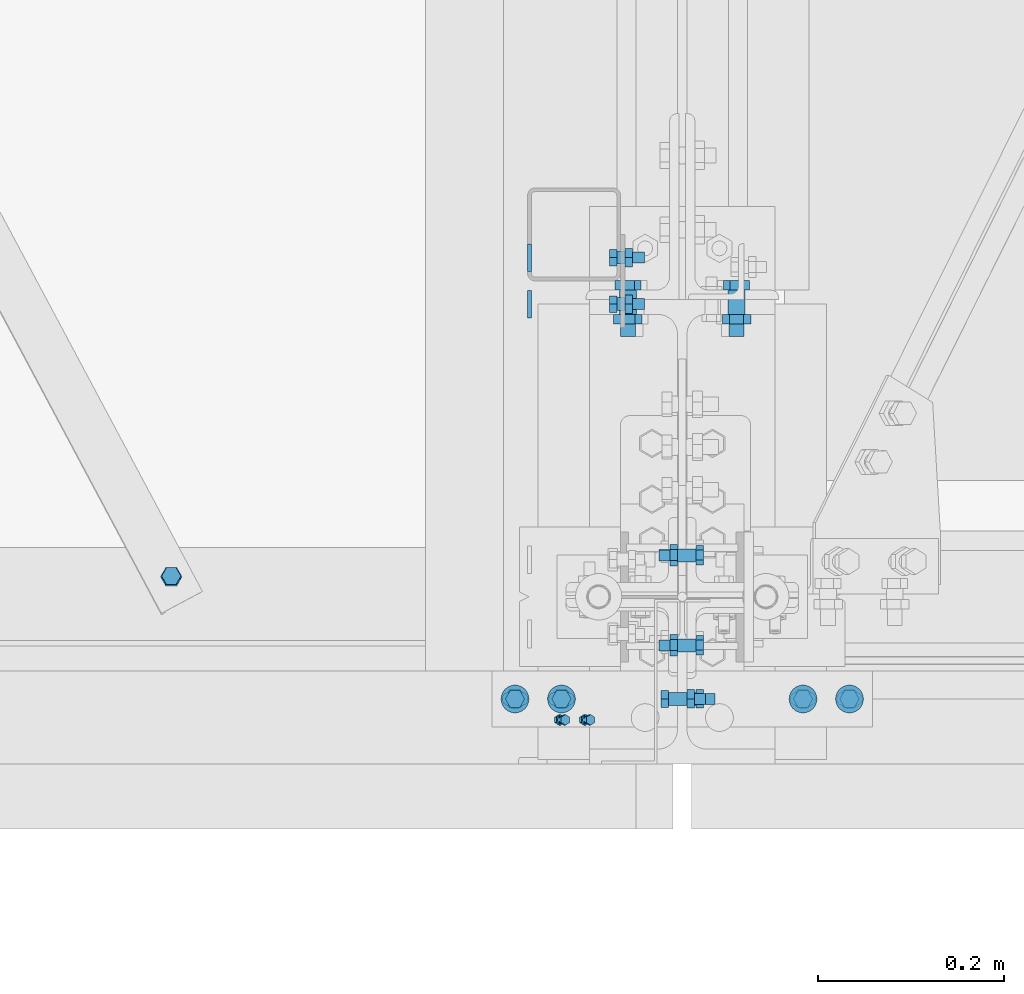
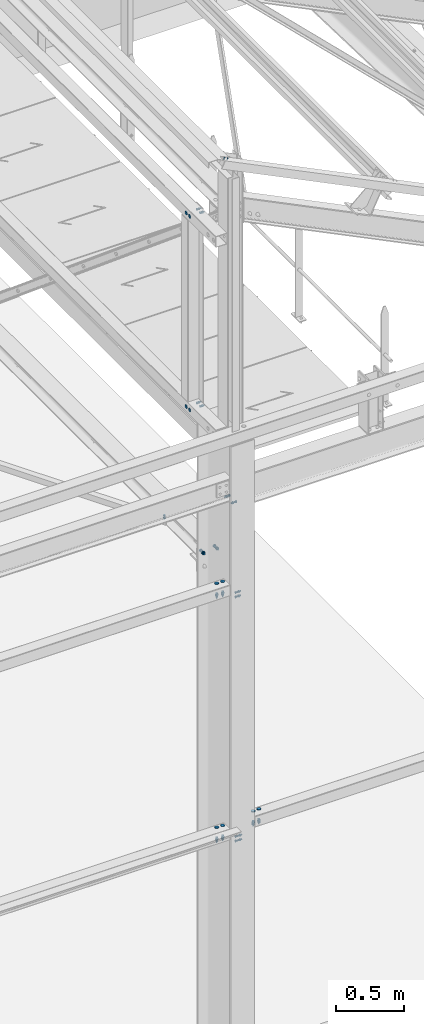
# One storey, part 307 of 362: 18 mechanical fasteners.
"""IFC2X3 building model written with IfcOpenShell, lengths in millimetres."""

import ifcopenshell
import ifcopenshell.guid

model = None  # the IFC model being written
_history = None  # IfcOwnerHistory: only IFC2X3 demands one
_inside = {}  # id of a spatial element -> (the spatial element, [elements in it])
_under = {}  # id of a project, library or spatial element -> (it, [spatial elements below it])
_declared = {}  # id of a project -> (the project, [libraries it declares])
_typed = {}  # id of a type object -> (the type object, [elements of that type])
_made_of = {}  # id of a material, layer set ... -> (it, [elements and type objects made of it])


def new_model(schema):
    """Start an empty IFC model of exactly this schema.

    Asked for "IFC4X3", IfcOpenShell would pick the latest addendum, in which some entities
    have other attributes; the version numbers below select the first issue.
    IFC2X3 requires an IfcOwnerHistory on every rooted entity: one is made here for all.
    """
    global model, _history
    if schema == "IFC4X3":
        model = ifcopenshell.file(schema_version=(4, 3, 0, 0))
    else:
        model = ifcopenshell.file(schema=schema)
    _inside.clear()
    _under.clear()
    _declared.clear()
    _typed.clear()
    _made_of.clear()
    _history = None
    if model.schema == "IFC2X3":
        org = make("IfcOrganization", Name="unknown")
        user = make(
            "IfcPersonAndOrganization",
            ThePerson=make("IfcPerson", FamilyName="unknown"),
            TheOrganization=org,
        )
        app = make(
            "IfcApplication",
            ApplicationDeveloper=org,
            Version="unknown",
            ApplicationFullName="unknown",
            ApplicationIdentifier="unknown",
        )
        _history = make(
            "IfcOwnerHistory",
            OwningUser=user,
            OwningApplication=app,
            ChangeAction="ADDED",
            CreationDate=0,
        )
    return model


def make(cls, **values):
    """One entity of the class cls with the attributes given. An attribute that is None is left unset."""
    return model.create_entity(
        cls, **{name: value for name, value in values.items() if value is not None}
    )


def rooted(cls, **values):
    """An entity with a GlobalId (a new one), such as an element, a storey or a relation."""
    return make(cls, GlobalId=ifcopenshell.guid.new(), OwnerHistory=_history, **values)


def si_unit(unit_type, name, prefix=None):
    """IfcSIUnit, for example si_unit("LENGTHUNIT", "METRE", prefix="MILLI")."""
    return make("IfcSIUnit", UnitType=unit_type, Prefix=prefix, Name=name)


def assignment(units):
    """IfcUnitAssignment: the units of a project."""
    return None if units is None else make("IfcUnitAssignment", Units=units)


def point(xyz):
    """IfcCartesianPoint."""
    return None if xyz is None else make("IfcCartesianPoint", Coordinates=xyz)


def direction(xyz):
    """IfcDirection."""
    return None if xyz is None else make("IfcDirection", DirectionRatios=xyz)


def frame(location, z_axis=None, x_axis=None):
    """IfcAxis2Placement3D, a coordinate frame: its origin and axes. An axis left out is left unset."""
    return make(
        "IfcAxis2Placement3D",
        Location=point(location),
        Axis=direction(z_axis),
        RefDirection=direction(x_axis),
    )


def frame_2d(location, x_axis=None):
    """IfcAxis2Placement2D, a coordinate frame in the plane: its origin and x axis."""
    return make(
        "IfcAxis2Placement2D", Location=point(location), RefDirection=direction(x_axis)
    )


def origin_with_axes():
    """The frame at (0, 0, 0) with the z axis (0, 0, 1) and the x axis (1, 0, 0) written out."""
    return frame((0.0, 0.0, 0.0), z_axis=(0.0, 0.0, 1.0), x_axis=(1.0, 0.0, 0.0))


def origin_2d_with_axis():
    """The frame at (0, 0) in the plane with the x axis (1, 0) written out."""
    return frame_2d((0.0, 0.0), x_axis=(1.0, 0.0))


def place(relative_to, where):
    """IfcLocalPlacement: puts the frame where relative to a parent placement (None: the world)."""
    return make(
        "IfcLocalPlacement", PlacementRelTo=relative_to, RelativePlacement=where
    )


def context(
    kind, dimensions, precision=None, world=None, true_north=None, identifier=None
):
    """IfcGeometricRepresentationContext, for example the 3D "Model" context."""
    return make(
        "IfcGeometricRepresentationContext",
        ContextIdentifier=identifier,
        ContextType=kind,
        CoordinateSpaceDimension=dimensions,
        Precision=precision,
        WorldCoordinateSystem=world,
        TrueNorth=true_north,
    )


def subcontext(parent, identifier, kind, view, scale=None):
    """IfcGeometricRepresentationSubContext, for example "Body" below "Model"."""
    return make(
        "IfcGeometricRepresentationSubContext",
        ContextIdentifier=identifier,
        ContextType=kind,
        ParentContext=parent,
        TargetScale=scale,
        TargetView=view,
    )


def project(units=None, contexts=None):
    """IfcProject with its units and contexts."""
    return rooted(
        "IfcProject",
        Name="project",
        RepresentationContexts=contexts,
        UnitsInContext=assignment(units),
    )


def spatial(cls, under=None, at=None, **own):
    """A site, building, storey or space (cls), placed at a placement, below another one or the project."""
    s = rooted(cls, ObjectPlacement=at, **own)
    if under is not None:
        _under.setdefault(under.id(), (under, []))[1].append(s)
    return s


def polyline(points):
    """IfcPolyline through the points."""
    return make("IfcPolyline", Points=[point(p) for p in points])


def circle_curve(where, radius):
    """IfcCircle in the frame where."""
    return make("IfcCircle", Position=where, Radius=radius)


def parameter(value):
    """IfcParameterValue: where a trimmed curve begins or ends, as a parameter of its basis curve."""
    return model.create_entity("IfcParameterValue", value)


def trimmed(basis, trim1, trim2, sense, master):
    """IfcTrimmedCurve: the piece of a basis curve between two trims."""
    return make(
        "IfcTrimmedCurve",
        BasisCurve=basis,
        Trim1=trim1,
        Trim2=trim2,
        SenseAgreement=sense,
        MasterRepresentation=master,
    )


def segment(curve, same_sense, transition):
    """IfcCompositeCurveSegment."""
    return make(
        "IfcCompositeCurveSegment",
        Transition=transition,
        SameSense=same_sense,
        ParentCurve=curve,
    )


def composite_curve(segments, self_intersect=None):
    """IfcCompositeCurve: segments joined end to end."""
    return make("IfcCompositeCurve", Segments=segments, SelfIntersect=self_intersect)


def profile(cls, at=None, kind="AREA", **sizes):
    """A parametric profile (cls). Its sizes go by their IFC names, for example OverallWidth=200.0."""
    return make(cls, ProfileType=kind, Position=at, **sizes)


def circle(**sizes):
    """IfcCircleProfileDef."""
    return profile("IfcCircleProfileDef", **sizes)


def outline(outer, holes=None, kind="AREA"):
    """IfcArbitraryClosedProfileDef: a profile drawn as a closed curve; with holes, ...WithVoids."""
    if holes is None:
        return make("IfcArbitraryClosedProfileDef", ProfileType=kind, OuterCurve=outer)
    return make(
        "IfcArbitraryProfileDefWithVoids",
        ProfileType=kind,
        OuterCurve=outer,
        InnerCurves=holes,
    )


def extrude(swept, where, along, depth):
    """IfcExtrudedAreaSolid: the profile swept, set in the frame where, extruded along a direction by depth."""
    return make(
        "IfcExtrudedAreaSolid",
        SweptArea=swept,
        Position=where,
        ExtrudedDirection=direction(along),
        Depth=depth,
    )


def shape(context_of_items, identifier, shape_type, items):
    """IfcShapeRepresentation: the items that make up one representation, for example the "Body"."""
    return make(
        "IfcShapeRepresentation",
        ContextOfItems=context_of_items,
        RepresentationIdentifier=identifier,
        RepresentationType=shape_type,
        Items=items,
    )


def source(mapping_origin, context_of_items, identifier, shape_type, items):
    """IfcRepresentationMap: a shape defined once, which mapped items show again and again."""
    return make(
        "IfcRepresentationMap",
        MappingOrigin=mapping_origin,
        MappedRepresentation=shape(context_of_items, identifier, shape_type, items),
    )


def transform(
    local_origin,
    x_axis=None,
    y_axis=None,
    z_axis=None,
    scale=None,
    scale2=None,
    scale3=None,
    uniform=True,
):
    """IfcCartesianTransformationOperator3D, or its non-uniform kind. x_axis, y_axis, z_axis: its Axis1, 2, 3."""
    if uniform:
        return make(
            "IfcCartesianTransformationOperator3D",
            Axis1=direction(x_axis),
            Axis2=direction(y_axis),
            LocalOrigin=point(local_origin),
            Scale=scale,
            Axis3=direction(z_axis),
        )
    return make(
        "IfcCartesianTransformationOperator3DnonUniform",
        Axis1=direction(x_axis),
        Axis2=direction(y_axis),
        LocalOrigin=point(local_origin),
        Scale=scale,
        Axis3=direction(z_axis),
        Scale2=scale2,
        Scale3=scale3,
    )


def mapped(mapping_source, mapping_target):
    """IfcMappedItem: shows the shape of a source again, moved by a transform."""
    return make(
        "IfcMappedItem", MappingSource=mapping_source, MappingTarget=mapping_target
    )


def material(Name=None, Category=None):
    """IfcMaterial."""
    return make("IfcMaterial", Name=Name, Category=Category)


def made_of(thing, what):
    """Note that an element or type object is made of a material, layer set ...; save() writes the relation."""
    if what is not None:
        _made_of.setdefault(what.id(), (what, []))[1].append(thing)
    return thing


def type_object(cls, material=None, **own):
    """A type object (cls), such as IfcWallType, which elements share."""
    return made_of(rooted(cls, **own), material)


def element(
    cls,
    number,
    at=None,
    inside=None,
    cuts=None,
    type_object=None,
    material=None,
    context=None,
    identifier="Body",
    shape_type=None,
    held_by="IfcProductDefinitionShape",
    body=None,
    shapes=None,
    **own,
):
    """One element of the class cls, such as IfcWall. Its Tag is "e" and its number.

    at: its placement. inside: the storey or other place that contains it. cuts: it is an
    opening in that element (IfcRelVoidsElement). A single representation is given by context,
    identifier, shape_type and body (its items); several are given by shapes. held_by: the class
    of the entity that holds the representations. save() writes the other relations.
    """
    e = rooted(cls, Tag="e%d" % number, ObjectPlacement=at, **own)
    if body is not None:
        shapes = [shape(context, identifier, shape_type, body)]
    if shapes is not None:
        e.Representation = make(held_by, Representations=shapes)
    if inside is not None:
        _inside.setdefault(inside.id(), (inside, []))[1].append(e)
    if cuts is not None:
        rooted(
            "IfcRelVoidsElement", RelatingBuildingElement=cuts, RelatedOpeningElement=e
        )
    if type_object is not None:
        _typed.setdefault(type_object.id(), (type_object, []))[1].append(e)
    return made_of(e, material)


def aggregate(whole, parts):
    """IfcRelAggregates: a whole, such as a stair, and the parts it consists of."""
    return rooted("IfcRelAggregates", RelatingObject=whole, RelatedObjects=parts)


def save(model, path):
    """Write the relations noted so far, then the file.

    IfcRelAggregates (storeys below a building ...), IfcRelContainedInSpatialStructure (elements
    in a storey), IfcRelDefinesByType, IfcRelAssociatesMaterial and IfcRelDeclares: one each for
    every whole, place, type object, material and project.
    """
    for whole, parts in _under.values():
        aggregate(whole, parts)
    for where, things in _inside.values():
        rooted(
            "IfcRelContainedInSpatialStructure",
            RelatedElements=things,
            RelatingStructure=where,
        )
    for kind, things in _typed.values():
        rooted("IfcRelDefinesByType", RelatedObjects=things, RelatingType=kind)
    for what, things in _made_of.values():
        rooted("IfcRelAssociatesMaterial", RelatedObjects=things, RelatingMaterial=what)
    for by, libraries in _declared.values():
        rooted("IfcRelDeclares", RelatingContext=by, RelatedDefinitions=libraries)
    model.write(path)


model = new_model("IFC2X3")

# Units and contexts
model_context = context("Model", 3, precision=1e-05, world=origin_with_axes())
body_context = subcontext(model_context, "Body", "Model", "MODEL_VIEW")
ifc_project = project(units=[si_unit("LENGTHUNIT", "METRE", prefix="MILLI"), si_unit("AREAUNIT", "SQUARE_METRE"), si_unit("VOLUMEUNIT", "CUBIC_METRE"), si_unit("MASSUNIT", "GRAM", prefix="KILO"), si_unit("TIMEUNIT", "SECOND"), si_unit("PLANEANGLEUNIT", "RADIAN"), si_unit("SOLIDANGLEUNIT", "STERADIAN"), si_unit("THERMODYNAMICTEMPERATUREUNIT", "DEGREE_CELSIUS"), si_unit("LUMINOUSINTENSITYUNIT", "LUMEN")], contexts=[model_context])

# Site, building, storey
site_placement = place(None, origin_with_axes())
site = spatial("IfcSite", under=ifc_project, at=site_placement, Name="Undefined", CompositionType="ELEMENT")
building_placement = place(site_placement, origin_with_axes())
building = spatial("IfcBuilding", under=site, at=building_placement, Name="Undefined", CompositionType="ELEMENT")
storey_placement = place(building_placement, origin_with_axes())
storey = spatial("IfcBuildingStorey", under=building, at=storey_placement, Name="Undefined", CompositionType="ELEMENT", Elevation=0.0)

# Mechanical fasteners
ifc_material_1 = material(Name="6.8")
mechanical_fastener_type = type_object("IfcMechanicalFastenerType", Name="Bolt assembly")
shared_shape_1 = source(origin_with_axes(), body_context, "Body", "SweptSolid", [
    extrude(circle(Radius=15.0, at=origin_2d_with_axis()), frame((0.0, 0.0, 0.0), z_axis=(0.0, 1.0, 0.0), x_axis=(1.0, 0.0, 0.0)), (0.0, 0.0, 1.0), 4.1),
])
mechanical_fastener_1_placement = place(storey_placement, frame((34113.4999999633, 339.9999987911, 10245.0), z_axis=(0.0, -1.0, 0.0), x_axis=(0.0, 0.0, -1.0)))
element("IfcMechanicalFastener", 1, at=mechanical_fastener_1_placement, inside=storey, type_object=mechanical_fastener_type, material=ifc_material_1, Name="Bolt assembly", NominalDiameter=30.0, NominalLength=4.0, context=body_context, shape_type="MappedRepresentation", body=[
    mapped(shared_shape_1, transform((0.0, 0.0, -25.0))),
    mapped(shared_shape_1, transform((0.0, 0.0, 25.0))),
])
for number, where, z_axis, x_axis, name in (
    (2, (34100.0000020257, -110.000005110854, 7200.000034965), (0.0, 1.0, 0.0), (1.0, 0.0, 0.0), "Bolt assembly"),
    (3, (34100.0000027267, -110.000005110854, 5000.00003496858), (0.0, 1.0, 0.0), (1.0, 0.0, 0.0), "Bolt assembly"),
):
    element("IfcMechanicalFastener", number, at=place(storey_placement, frame(where, z_axis=z_axis, x_axis=x_axis)), inside=storey, type_object=mechanical_fastener_type, material=ifc_material_1, Name=name, NominalDiameter=30.0, NominalLength=4.0, context=body_context, shape_type="MappedRepresentation", body=[
        mapped(shared_shape_1, transform((0.0, 0.0, 0.0))),
        mapped(shared_shape_1, transform((49.9999999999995, 0.0, -3.63797880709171e-12))),
    ])
ifc_material_2 = material(Name="8.8-SB-ZINGUE")
shared_shape_2 = source(origin_with_axes(), body_context, "Body", "SweptSolid", [
    extrude(circle(Radius=7.0, at=origin_2d_with_axis()), frame((0.0, -3.89999843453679, 0.0), z_axis=(0.0, 1.0, 0.0), x_axis=(1.0, 0.0, 0.0)), (0.0, 0.0, 1.0), 4.0),
    extrude(circle(Radius=7.0, at=origin_2d_with_axis()), frame((0.0, -0.100011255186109, 0.0), z_axis=(0.0, 1.0, 0.0), x_axis=(1.0, 0.0, 0.0)), (0.0, 0.0, 1.0), 5.1),
    extrude(outline(polyline([(10.39230484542, 0.0), (5.19615242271, 9.00000000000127), (-5.19615242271, 9.00000000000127), (-10.39230484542, 0.0), (-5.19615242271, -9.00000000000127), (5.19615242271, -9.00000000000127), (10.39230484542, 0.0)])), frame((0.0, -11.9199984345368, 0.0), z_axis=(0.0, 1.0, 0.0), x_axis=(1.0, 0.0, 0.0)), (0.0, 0.0, 1.0), 7.92),
    extrude(circle(Radius=6.0, at=origin_2d_with_axis()), frame((0.0, -3.99999923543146, 0.0), z_axis=(0.0, 1.0, 0.0), x_axis=(1.0, 0.0, 0.0)), (0.0, 0.0, 1.0), 30.0),
    extrude(outline(polyline([(11.5008173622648, 0.0), (5.7504086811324, 9.96000000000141), (-5.7504086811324, 9.96000000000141), (-11.5008173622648, 0.0), (-5.7504086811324, -9.96000000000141), (5.7504086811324, -9.96000000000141), (11.5008173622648, 0.0)])), frame((0.0, 5.0, 0.0), z_axis=(0.0, 1.0, 0.0), x_axis=(1.0, 0.0, 0.0)), (0.0, 0.0, 1.0), 7.92),
])
mechanical_fastener_2_placement = place(storey_placement, frame((34213.4999999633, 339.9999987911, 10245.0), z_axis=(0.0, -1.0, 0.0), x_axis=(0.0, 0.0, -1.0)))
element("IfcMechanicalFastener", 4, at=mechanical_fastener_2_placement, inside=storey, type_object=mechanical_fastener_type, material=ifc_material_2, Name="Bolt assembly", NominalDiameter=12.0, NominalLength=30.0, context=body_context, shape_type="MappedRepresentation", body=[
    mapped(shared_shape_2, transform((0.0, 0.0, -25.0))),
    mapped(shared_shape_2, transform((0.0, 0.0, 25.0))),
])
shared_shape_3 = source(origin_with_axes(), body_context, "Body", "SweptSolid", [
    extrude(circle(Radius=7.0, at=origin_2d_with_axis()), frame((0.0, -8.39498354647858, 0.0), z_axis=(0.0, 1.0, 0.0), x_axis=(1.0, 0.0, 0.0)), (0.0, 0.0, 1.0), 8.5),
    extrude(circle(Radius=7.0, at=origin_2d_with_axis()), frame((0.0, -0.100011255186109, 0.0), z_axis=(0.0, 1.0, 0.0), x_axis=(1.0, 0.0, 0.0)), (0.0, 0.0, 1.0), 5.1),
    extrude(outline(polyline([(10.39230484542, 0.0), (5.19615242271, 9.00000000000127), (-5.19615242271, 9.00000000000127), (-10.39230484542, 0.0), (-5.19615242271, -9.00000000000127), (5.19615242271, -9.00000000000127), (10.39230484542, 0.0)])), frame((0.0, -16.4149835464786, 0.0), z_axis=(0.0, 1.0, 0.0), x_axis=(1.0, 0.0, 0.0)), (0.0, 0.0, 1.0), 7.92),
    extrude(circle(Radius=6.0, at=origin_2d_with_axis()), frame((0.0, -8.49498354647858, 0.0), z_axis=(0.0, 1.0, 0.0), x_axis=(1.0, 0.0, 0.0)), (0.0, 0.0, 1.0), 30.0),
    extrude(outline(polyline([(11.5008173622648, 0.0), (5.7504086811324, 9.96000000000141), (-5.7504086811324, 9.96000000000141), (-11.5008173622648, 0.0), (-5.7504086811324, -9.96000000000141), (5.7504086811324, -9.96000000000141), (11.5008173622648, 0.0)])), frame((0.0, 5.0, 0.0), z_axis=(0.0, 1.0, 0.0), x_axis=(1.0, 0.0, 0.0)), (0.0, 0.0, 1.0), 7.92),
])
mechanical_fastener_3_placement = place(storey_placement, frame((33730.0000126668, 21.8467572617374, 7849.22159354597), z_axis=(0.0, -0.999506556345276, 0.031410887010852), x_axis=(-1.0, 0.0, 0.0)))
element("IfcMechanicalFastener", 5, at=mechanical_fastener_3_placement, inside=storey, type_object=mechanical_fastener_type, material=ifc_material_2, Name="Bolt assembly", NominalDiameter=12.0, NominalLength=30.0, context=body_context, shape_type="MappedRepresentation", body=[
    mapped(shared_shape_3, transform((0.0, 0.0, 0.0))),
])
shared_shape_4 = source(origin_with_axes(), body_context, "Body", "SweptSolid", [
    extrude(circle(Radius=4.0, at=origin_2d_with_axis()), frame((0.0, 0.0, 0.0), z_axis=(0.0, 1.0, 0.0), x_axis=(1.0, 0.0, 0.0)), (0.0, 0.0, 1.0), 7.1),
    extrude(outline(polyline([(5.7735026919, 0.0), (2.88675134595, 5.00000000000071), (-2.88675134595, 5.00000000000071), (-5.7735026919, 0.0), (-2.88675134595, -5.00000000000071), (2.88675134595, -5.00000000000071), (5.7735026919, 0.0)])), frame((0.0, -4.00006625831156, 0.0), z_axis=(0.0, 1.0, 0.0), x_axis=(1.0, 0.0, 0.0)), (0.0, 0.0, 1.0), 4.0),
    extrude(circle(Radius=3.0, at=origin_2d_with_axis()), frame((0.0, 0.0, 0.0), z_axis=(0.0, 1.0, 0.0), x_axis=(1.0, 0.0, 0.0)), (0.0, 0.0, 1.0), 16.0),
    extrude(outline(polyline([(5.7735026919, 0.0), (2.88675134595, 5.00000000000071), (-2.88675134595, 5.00000000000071), (-5.7735026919, 0.0), (-2.88675134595, -5.00000000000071), (2.88675134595, -5.00000000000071), (5.7735026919, 0.0)])), frame((0.0, 7.0, 0.0), z_axis=(0.0, 1.0, 0.0), x_axis=(1.0, 0.0, 0.0)), (0.0, 0.0, 1.0), 5.2),
])
mechanical_fastener_4_placement = place(storey_placement, frame((34165.9303930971, -132.499920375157, 11022.0307818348), z_axis=(-0.897397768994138, 0.0, 0.441222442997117), x_axis=(0.0, 1.0, 0.0)))
element("IfcMechanicalFastener", 6, at=mechanical_fastener_4_placement, inside=storey, type_object=mechanical_fastener_type, material=ifc_material_1, Name="Bolt assembly", NominalDiameter=6.0, NominalLength=16.0, context=body_context, shape_type="MappedRepresentation", body=[
    mapped(shared_shape_4, transform((0.0, 0.0, -15.0))),
    mapped(shared_shape_4, transform((0.0, -3.63797880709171e-12, 15.0000000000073))),
])
shared_shape_5 = source(origin_with_axes(), body_context, "Body", "SweptSolid", [
    extrude(circle(Radius=15.0, at=origin_2d_with_axis()), frame((0.0, 6.26397177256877e-05, 0.0), z_axis=(0.0, 1.0, 0.0), x_axis=(1.0, 0.0, 0.0)), (0.0, 0.0, 1.0), 4.1),
])
mechanical_fastener_5_placement = place(storey_placement, frame((34460.0000021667, -110.000005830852, 5040.00003496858), z_axis=(0.0, -1.0, 0.0), x_axis=(-1.0, 0.0, 0.0)))
element("IfcMechanicalFastener", 7, at=mechanical_fastener_5_placement, inside=storey, type_object=mechanical_fastener_type, material=ifc_material_1, Name="Bolt assembly", NominalDiameter=30.0, NominalLength=4.0, context=body_context, shape_type="MappedRepresentation", body=[
    mapped(shared_shape_5, transform((0.0, 0.0, 0.0))),
    mapped(shared_shape_5, transform((49.9999999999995, 0.0, -3.63797880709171e-12))),
])
shared_shape_6 = source(origin_with_axes(), body_context, "Body", "SweptSolid", [
    extrude(circle(Radius=15.0, at=origin_2d_with_axis()), frame((0.0, -0.000130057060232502, 0.0), z_axis=(0.0, 1.0, 0.0), x_axis=(1.0, 0.0, 0.0)), (0.0, 0.0, 1.0), 4.1),
])
mechanical_fastener_6_placement = place(storey_placement, frame((34113.5001162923, 339.9999987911, 8500.0), z_axis=(0.0, 1.0, 0.0), x_axis=(0.0, 0.0, 1.0)))
element("IfcMechanicalFastener", 8, at=mechanical_fastener_6_placement, inside=storey, type_object=mechanical_fastener_type, material=ifc_material_1, Name="Bolt assembly", NominalDiameter=30.0, NominalLength=4.0, context=body_context, shape_type="MappedRepresentation", body=[
    mapped(shared_shape_6, transform((0.0, 0.0, -25.0))),
    mapped(shared_shape_6, transform((0.0, 0.0, 25.0))),
])
shared_shape_7 = source(origin_with_axes(), body_context, "Body", "SweptSolid", [
    extrude(circle(Radius=7.0, at=origin_2d_with_axis()), frame((0.0, -3.90012822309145, 0.0), z_axis=(0.0, 1.0, 0.0), x_axis=(1.0, 0.0, 0.0)), (0.0, 0.0, 1.0), 4.0),
    extrude(circle(Radius=7.0, at=origin_2d_with_axis()), frame((0.0, -0.10007666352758, 0.0), z_axis=(0.0, 1.0, 0.0), x_axis=(1.0, 0.0, 0.0)), (0.0, 0.0, 1.0), 5.1),
    extrude(outline(polyline([(10.39230484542, 0.0), (5.19615242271, 9.00000000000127), (-5.19615242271, 9.00000000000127), (-10.39230484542, 0.0), (-5.19615242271, -9.00000000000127), (5.19615242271, -9.00000000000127), (10.39230484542, 0.0)])), frame((0.0, -11.9201282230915, 0.0), z_axis=(0.0, 1.0, 0.0), x_axis=(1.0, 0.0, 0.0)), (0.0, 0.0, 1.0), 7.92),
    extrude(circle(Radius=6.0, at=origin_2d_with_axis()), frame((0.0, -4.00012822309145, 0.0), z_axis=(0.0, 1.0, 0.0), x_axis=(1.0, 0.0, 0.0)), (0.0, 0.0, 1.0), 30.0),
    extrude(outline(polyline([(11.5008173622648, 0.0), (5.7504086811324, 9.96000000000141), (-5.7504086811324, 9.96000000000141), (-11.5008173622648, 0.0), (-5.7504086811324, -9.96000000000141), (5.7504086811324, -9.96000000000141), (11.5008173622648, 0.0)])), frame((0.0, 4.99988368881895, 0.0), z_axis=(0.0, 1.0, 0.0), x_axis=(1.0, 0.0, 0.0)), (0.0, 0.0, 1.0), 7.92),
])
mechanical_fastener_7_placement = place(storey_placement, frame((34213.5001162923, 339.9999987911, 8500.0), z_axis=(0.0, 1.0, 0.0), x_axis=(0.0, 0.0, 1.0)))
element("IfcMechanicalFastener", 9, at=mechanical_fastener_7_placement, inside=storey, type_object=mechanical_fastener_type, material=ifc_material_2, Name="Bolt assembly", NominalDiameter=12.0, NominalLength=30.0, context=body_context, shape_type="MappedRepresentation", body=[
    mapped(shared_shape_7, transform((0.0, 0.0, -25.0))),
    mapped(shared_shape_7, transform((0.0, 0.0, 25.0))),
])
shared_shape_8 = source(origin_with_axes(), body_context, "Body", "SweptSolid", [
    extrude(circle(Radius=7.0, at=origin_2d_with_axis()), frame((0.0, -5.19979480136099, 0.0), z_axis=(0.0, 1.0, 0.0), x_axis=(1.0, 0.0, 0.0)), (0.0, 0.0, 1.0), 10.3),
    extrude(circle(Radius=7.0, at=origin_2d_with_axis()), frame((0.0, -14.8994948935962, 0.0), z_axis=(0.0, 1.0, 0.0), x_axis=(1.0, 0.0, 0.0)), (0.0, 0.0, 1.0), 10.0),
    extrude(outline(polyline([(10.39230484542, 0.0), (5.19615242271, 9.00000000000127), (-5.19615242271, 9.00000000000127), (-10.39230484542, 0.0), (-5.19615242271, -9.00000000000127), (5.19615242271, -9.00000000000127), (10.39230484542, 0.0)])), frame((0.0, -22.9194948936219, 0.0), z_axis=(0.0, 1.0, 0.0), x_axis=(1.0, 0.0, 0.0)), (0.0, 0.0, 1.0), 7.92),
    extrude(circle(Radius=6.0, at=origin_2d_with_axis()), frame((0.0, -14.9994948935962, 0.0), z_axis=(0.0, 1.0, 0.0), x_axis=(1.0, 0.0, 0.0)), (0.0, 0.0, 1.0), 40.0),
    extrude(outline(polyline([(11.5008173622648, 0.0), (5.7504086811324, 9.96000000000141), (-5.7504086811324, 9.96000000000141), (-11.5008173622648, 0.0), (-5.7504086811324, -9.96000000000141), (5.7504086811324, -9.96000000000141), (11.5008173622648, 0.0)])), frame((0.0, 5.10020500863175, 0.0), z_axis=(0.0, 1.0, 0.0), x_axis=(1.0, 0.0, 0.0)), (0.0, 0.0, 1.0), 7.92),
])
for number, where, z_axis, x_axis, name in (
    (10, (34280.0, 44.7053349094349, 7828.48987985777), (-1.05403257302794e-09, -0.0314112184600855, -0.999506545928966), (0.0, -0.999506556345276, 0.031410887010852), "Bolt assembly"),
    (11, (34280.0, -52.2476624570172, 7831.53677878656), (7.58071938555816e-11, 0.0314107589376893, 0.999506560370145), (3.14103090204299e-11, 0.999506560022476, -0.0314107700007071), "Bolt assembly"),
):
    element("IfcMechanicalFastener", number, at=place(storey_placement, frame(where, z_axis=z_axis, x_axis=x_axis)), inside=storey, type_object=mechanical_fastener_type, material=ifc_material_2, Name=name, NominalDiameter=12.0, NominalLength=40.0, context=body_context, shape_type="MappedRepresentation", body=[
        mapped(shared_shape_8, transform((0.0, 0.0, 0.0))),
    ])
shared_shape_9 = source(origin_with_axes(), body_context, "Body", "SweptSolid", [
    extrude(circle(Radius=9.0, at=origin_2d_with_axis()), frame((0.0, -0.0910402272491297, 0.0), z_axis=(0.0, 1.0, 0.0), x_axis=(1.0, 0.0, 0.0)), (0.0, 0.0, 1.0), 16.1),
    extrude(circle(Radius=9.0, at=origin_2d_with_axis()), frame((0.0, -9.88833050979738, 0.0), z_axis=(0.0, 1.0, 0.0), x_axis=(1.0, 0.0, 0.0)), (0.0, 0.0, 1.0), 10.0),
    extrude(outline(polyline([(13.85640646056, 0.0), (6.92820323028, 12.0000000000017), (-6.92820323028, 12.0000000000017), (-13.85640646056, 0.0), (-6.92820323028, -12.0000000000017), (6.92820323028, -12.0000000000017), (13.85640646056, 0.0)])), frame((0.0, -20.5483104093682, 0.0), z_axis=(0.0, 1.0, 0.0), x_axis=(1.0, 0.0, 0.0)), (0.0, 0.0, 1.0), 10.56),
    extrude(circle(Radius=8.0, at=origin_2d_with_axis()), frame((0.0, -9.98833050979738, 0.0), z_axis=(0.0, 1.0, 0.0), x_axis=(1.0, 0.0, 0.0)), (0.0, 0.0, 1.0), 50.0),
    extrude(outline(polyline([(15.3344231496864, 0.0), (7.6672115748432, 13.2800000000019), (-7.6672115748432, 13.2800000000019), (-15.3344231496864, 0.0), (-7.6672115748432, -13.2800000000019), (7.6672115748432, -13.2800000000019), (15.3344231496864, 0.0)])), frame((0.0, 16.0089603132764, 0.0), z_axis=(0.0, 1.0, 0.0), x_axis=(1.0, 0.0, 0.0)), (0.0, 0.0, 1.0), 10.56),
])
mechanical_fastener_8_placement = place(storey_placement, frame((34221.4999984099, 320.008959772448, 7183.50000001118), z_axis=(0.0, 0.0, -1.0), x_axis=(0.999999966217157, 0.000259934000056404, 0.0)))
element("IfcMechanicalFastener", 12, at=mechanical_fastener_8_placement, inside=storey, type_object=mechanical_fastener_type, material=ifc_material_2, Name="Bolt assembly", NominalDiameter=16.0, NominalLength=50.0, context=body_context, shape_type="MappedRepresentation", body=[
    mapped(shared_shape_9, transform((0.0, 0.0, 0.0))),
])
shared_shape_10 = source(origin_with_axes(), body_context, "Body", "SweptSolid", [
    extrude(circle(Radius=9.0, at=origin_2d_with_axis()), frame((0.0, -0.0919732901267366, 0.0), z_axis=(0.0, 1.0, 0.0), x_axis=(1.0, 0.0, 0.0)), (0.0, 0.0, 1.0), 16.1),
    extrude(circle(Radius=9.0, at=origin_2d_with_axis()), frame((0.0, -9.8892433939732, 0.0), z_axis=(0.0, 1.0, 0.0), x_axis=(1.0, 0.0, 0.0)), (0.0, 0.0, 1.0), 10.0),
    extrude(outline(polyline([(13.85640646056, 0.0), (6.92820323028, 12.0000000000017), (-6.92820323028, 12.0000000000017), (-13.85640646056, 0.0), (-6.92820323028, -12.0000000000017), (6.92820323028, -12.0000000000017), (13.85640646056, 0.0)])), frame((0.0, -20.5492433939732, 0.0), z_axis=(0.0, 1.0, 0.0), x_axis=(1.0, 0.0, 0.0)), (0.0, 0.0, 1.0), 10.56),
    extrude(circle(Radius=8.0, at=origin_2d_with_axis()), frame((0.0, -9.9892433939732, 0.0), z_axis=(0.0, 1.0, 0.0), x_axis=(1.0, 0.0, 0.0)), (0.0, 0.0, 1.0), 50.0),
    extrude(outline(polyline([(15.3344231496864, 0.0), (7.6672115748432, 13.2800000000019), (-7.6672115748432, 13.2800000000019), (-15.3344231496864, 0.0), (-7.6672115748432, -13.2800000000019), (7.6672115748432, -13.2800000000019), (15.3344231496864, 0.0)])), frame((0.0, 16.0080271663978, 0.0), z_axis=(0.0, 1.0, 0.0), x_axis=(1.0, 0.0, 0.0)), (0.0, 0.0, 1.0), 10.56),
])
mechanical_fastener_9_placement = place(storey_placement, frame((34338.5000012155, 320.008026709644, 7183.50000001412), z_axis=(0.0, 0.0, 1.0), x_axis=(-0.999999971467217, 0.000238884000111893, 0.0)))
element("IfcMechanicalFastener", 13, at=mechanical_fastener_9_placement, inside=storey, type_object=mechanical_fastener_type, material=ifc_material_2, Name="Bolt assembly", NominalDiameter=16.0, NominalLength=50.0, context=body_context, shape_type="MappedRepresentation", body=[
    mapped(shared_shape_10, transform((0.0, 0.0, 0.0))),
])
shared_shape_11 = source(origin_with_axes(), body_context, "Body", "SweptSolid", [
    extrude(circle(Radius=7.0, at=origin_2d_with_axis()), frame((0.0, -5.20047640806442, 0.0), z_axis=(0.0, 1.0, 0.0), x_axis=(1.0, 0.0, 0.0)), (0.0, 0.0, 1.0), 10.3),
    extrude(circle(Radius=7.0, at=origin_2d_with_axis()), frame((0.0, -14.899999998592, 0.0), z_axis=(0.0, 1.0, 0.0), x_axis=(1.0, 0.0, 0.0)), (0.0, 0.0, 1.0), 10.0),
    extrude(outline(polyline([(10.39230484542, 0.0), (5.19615242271, 9.00000000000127), (-5.19615242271, 9.00000000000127), (-10.39230484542, 0.0), (-5.19615242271, -9.00000000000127), (5.19615242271, -9.00000000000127), (10.39230484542, 0.0)])), frame((0.0, -22.919999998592, 0.0), z_axis=(0.0, 1.0, 0.0), x_axis=(1.0, 0.0, 0.0)), (0.0, 0.0, 1.0), 7.92),
    extrude(circle(Radius=6.0, at=origin_2d_with_axis()), frame((0.0, -14.999999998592, 0.0), z_axis=(0.0, 1.0, 0.0), x_axis=(1.0, 0.0, 0.0)), (0.0, 0.0, 1.0), 40.0),
    extrude(outline(polyline([(11.5008173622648, 0.0), (5.7504086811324, 9.96000000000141), (-5.7504086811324, 9.96000000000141), (-11.5008173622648, 0.0), (-5.7504086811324, -9.96000000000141), (5.7504086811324, -9.96000000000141), (11.5008173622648, 0.0)])), frame((0.0, 5.09952340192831, 0.0), z_axis=(0.0, 1.0, 0.0), x_axis=(1.0, 0.0, 0.0)), (0.0, 0.0, 1.0), 7.92),
])
mechanical_fastener_10_placement = place(storey_placement, frame((34280.0000045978, -110.00000764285, 7020.000034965), z_axis=(0.0, 1.0, 0.0), x_axis=(0.0, 0.0, 1.0)))
element("IfcMechanicalFastener", 14, at=mechanical_fastener_10_placement, inside=storey, type_object=mechanical_fastener_type, material=ifc_material_2, Name="Bolt assembly", NominalDiameter=12.0, NominalLength=40.0, context=body_context, shape_type="MappedRepresentation", body=[
    mapped(shared_shape_11, transform((0.0, 0.0, 0.0))),
    mapped(shared_shape_11, transform((40.0, 0.0, 0.0))),
])
shared_shape_12 = source(origin_with_axes(), body_context, "Body", "SweptSolid", [
    extrude(circle(Radius=7.0, at=origin_2d_with_axis()), frame((0.0, -3.89999843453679, 0.0), z_axis=(0.0, 1.0, 0.0), x_axis=(1.0, 0.0, 0.0)), (0.0, 0.0, 1.0), 4.0),
    extrude(outline(composite_curve([segment(polyline([(-7.0, 7.0), (7.0, 7.0)]), True, "CONTINUOUS"), segment(trimmed(circle_curve(frame_2d((7.0, 0.0), x_axis=(0.0, 1.0)), 7.0), [parameter(0.0)], [parameter(3.14159265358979)], False, "PARAMETER"), True, "CONTINUOUS"), segment(polyline([(7.0, -7.0), (-7.0, -7.0)]), True, "CONTINUOUS"), segment(trimmed(circle_curve(frame_2d((-7.0, 0.0), x_axis=(0.0, -1.0)), 7.0), [parameter(0.0)], [parameter(3.14159265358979)], False, "PARAMETER"), True, "DISCONTINUOUS")], self_intersect=False)), frame((0.0, -0.100011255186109, 0.0), z_axis=(0.0, 1.0, 0.0), x_axis=(1.0, 0.0, 0.0)), (0.0, 0.0, 1.0), 10.1),
    extrude(outline(polyline([(10.39230484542, 0.0), (5.19615242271, 9.00000000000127), (-5.19615242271, 9.00000000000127), (-10.39230484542, 0.0), (-5.19615242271, -9.00000000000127), (5.19615242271, -9.00000000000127), (10.39230484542, 0.0)])), frame((0.0, -11.9199984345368, 0.0), z_axis=(0.0, 1.0, 0.0), x_axis=(1.0, 0.0, 0.0)), (0.0, 0.0, 1.0), 7.92),
    extrude(circle(Radius=6.0, at=origin_2d_with_axis()), frame((0.0, -3.99999923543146, 0.0), z_axis=(0.0, 1.0, 0.0), x_axis=(1.0, 0.0, 0.0)), (0.0, 0.0, 1.0), 40.0),
    extrude(circle(Radius=10.8, at=origin_2d_with_axis()), frame((0.0, 10.0000000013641, 0.0), z_axis=(0.0, 1.0, 0.0), x_axis=(1.0, 0.0, 0.0)), (0.0, 0.0, 1.0), 3.96),
    extrude(outline(polyline([(11.5008173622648, 0.0), (5.7504086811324, 9.96000000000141), (-5.7504086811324, 9.96000000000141), (-11.5008173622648, 0.0), (-5.7504086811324, -9.96000000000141), (5.7504086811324, -9.96000000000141), (11.5008173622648, 0.0)])), frame((0.0, 13.96, 0.0), z_axis=(0.0, 1.0, 0.0), x_axis=(1.0, 0.0, 0.0)), (0.0, 0.0, 1.0), 7.92),
])
mechanical_fastener_11_placement = place(storey_placement, frame((34100.0000020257, -110.000005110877, 7100.000034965), z_axis=(0.0, 1.0, 0.0), x_axis=(1.0, 0.0, 0.0)))
element("IfcMechanicalFastener", 15, at=mechanical_fastener_11_placement, inside=storey, type_object=mechanical_fastener_type, material=ifc_material_2, Name="Bolt assembly", NominalDiameter=12.0, NominalLength=40.0, context=body_context, shape_type="MappedRepresentation", body=[
    mapped(shared_shape_12, transform((0.0, 0.0, 0.0))),
    mapped(shared_shape_12, transform((49.9999999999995, 0.0, -3.63797880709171e-12))),
])
shared_shape_13 = source(origin_with_axes(), body_context, "Body", "SweptSolid", [
    extrude(circle(Radius=7.0, at=origin_2d_with_axis()), frame((0.0, -5.10120310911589, 0.0), z_axis=(0.0, 1.0, 0.0), x_axis=(1.0, 0.0, 0.0)), (0.0, 0.0, 1.0), 10.2),
    extrude(circle(Radius=7.0, at=origin_2d_with_axis()), frame((0.0, -14.899999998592, 0.0), z_axis=(0.0, 1.0, 0.0), x_axis=(1.0, 0.0, 0.0)), (0.0, 0.0, 1.0), 10.0),
    extrude(circle(Radius=7.0, at=origin_2d_with_axis()), frame((0.0, 4.89993376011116, 0.0), z_axis=(0.0, 1.0, 0.0), x_axis=(1.0, 0.0, 0.0)), (0.0, 0.0, 1.0), 10.1),
    extrude(outline(polyline([(10.39230484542, 0.0), (5.19615242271, 9.00000000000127), (-5.19615242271, 9.00000000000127), (-10.39230484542, 0.0), (-5.19615242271, -9.00000000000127), (5.19615242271, -9.00000000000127), (10.39230484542, 0.0)])), frame((0.0, -22.919999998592, 0.0), z_axis=(0.0, 1.0, 0.0), x_axis=(1.0, 0.0, 0.0)), (0.0, 0.0, 1.0), 7.92),
    extrude(circle(Radius=6.0, at=origin_2d_with_axis()), frame((0.0, -14.999999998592, 0.0), z_axis=(0.0, 1.0, 0.0), x_axis=(1.0, 0.0, 0.0)), (0.0, 0.0, 1.0), 50.0),
    extrude(outline(polyline([(11.5008173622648, 0.0), (5.7504086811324, 9.96000000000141), (-5.7504086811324, 9.96000000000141), (-11.5008173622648, 0.0), (-5.7504086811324, -9.96000000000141), (5.7504086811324, -9.96000000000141), (11.5008173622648, 0.0)])), frame((0.0, 15.0000000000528, 0.0), z_axis=(0.0, 1.0, 0.0), x_axis=(1.0, 0.0, 0.0)), (0.0, 0.0, 1.0), 7.92),
])
mechanical_fastener_12_placement = place(storey_placement, frame((34280.0000052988, -110.000007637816, 4820.00003496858), z_axis=(0.0, 1.0, 0.0), x_axis=(0.0, 0.0, 1.0)))
element("IfcMechanicalFastener", 16, at=mechanical_fastener_12_placement, inside=storey, type_object=mechanical_fastener_type, material=ifc_material_2, Name="Bolt assembly", NominalDiameter=12.0, NominalLength=50.0, context=body_context, shape_type="MappedRepresentation", body=[
    mapped(shared_shape_13, transform((0.0, 0.0, 0.0))),
    mapped(shared_shape_13, transform((40.0, 0.0, 0.0))),
])
shared_shape_14 = source(origin_with_axes(), body_context, "Body", "SweptSolid", [
    extrude(circle(Radius=7.0, at=origin_2d_with_axis()), frame((0.0, -3.89999843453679, 0.0), z_axis=(0.0, 1.0, 0.0), x_axis=(1.0, 0.0, 0.0)), (0.0, 0.0, 1.0), 4.0),
    extrude(outline(composite_curve([segment(polyline([(-7.0, 7.0), (7.0, 7.0)]), True, "CONTINUOUS"), segment(trimmed(circle_curve(frame_2d((7.0, 0.0), x_axis=(0.0, 1.0)), 7.0), [parameter(0.0)], [parameter(3.14159265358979)], False, "PARAMETER"), True, "CONTINUOUS"), segment(polyline([(7.0, -7.0), (-7.0, -7.0)]), True, "CONTINUOUS"), segment(trimmed(circle_curve(frame_2d((-7.0, 0.0), x_axis=(0.0, -1.0)), 7.0), [parameter(0.0)], [parameter(3.14159265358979)], False, "PARAMETER"), True, "DISCONTINUOUS")], self_intersect=False)), frame((0.0, -0.100011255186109, 0.0), z_axis=(0.0, 1.0, 0.0), x_axis=(1.0, 0.0, 0.0)), (0.0, 0.0, 1.0), 10.1),
    extrude(outline(polyline([(10.39230484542, 0.0), (5.19615242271, 9.00000000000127), (-5.19615242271, 9.00000000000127), (-10.39230484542, 0.0), (-5.19615242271, -9.00000000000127), (5.19615242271, -9.00000000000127), (10.39230484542, 0.0)])), frame((0.0, -11.9199984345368, 0.0), z_axis=(0.0, 1.0, 0.0), x_axis=(1.0, 0.0, 0.0)), (0.0, 0.0, 1.0), 7.92),
    extrude(circle(Radius=6.0, at=origin_2d_with_axis()), frame((0.0, -3.99999923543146, 0.0), z_axis=(0.0, 1.0, 0.0), x_axis=(1.0, 0.0, 0.0)), (0.0, 0.0, 1.0), 40.0),
    extrude(circle(Radius=10.8, at=origin_2d_with_axis()), frame((0.0, 10.0000000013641, 0.0), z_axis=(0.0, 1.0, 0.0), x_axis=(1.0, 0.0, 0.0)), (0.0, 0.0, 1.0), 3.96),
    extrude(outline(polyline([(11.5008173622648, 0.0), (5.7504086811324, 9.96000000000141), (-5.7504086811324, 9.96000000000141), (-11.5008173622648, 0.0), (-5.7504086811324, -9.96000000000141), (5.7504086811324, -9.96000000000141), (11.5008173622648, 0.0)])), frame((0.0, 13.96, 0.0), z_axis=(0.0, 1.0, 0.0), x_axis=(1.0, 0.0, 0.0)), (0.0, 0.0, 1.0), 7.92),
])
mechanical_fastener_13_placement = place(storey_placement, frame((34100.0000027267, -110.000005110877, 4900.00003496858), z_axis=(0.0, 1.0, 0.0), x_axis=(1.0, 0.0, 0.0)))
element("IfcMechanicalFastener", 17, at=mechanical_fastener_13_placement, inside=storey, type_object=mechanical_fastener_type, material=ifc_material_2, Name="Bolt assembly", NominalDiameter=12.0, NominalLength=40.0, context=body_context, shape_type="MappedRepresentation", body=[
    mapped(shared_shape_14, transform((0.0, 0.0, 0.0))),
    mapped(shared_shape_14, transform((49.9999999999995, 0.0, -3.63797880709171e-12))),
])
shared_shape_15 = source(origin_with_axes(), body_context, "Body", "SweptSolid", [
    extrude(circle(Radius=7.0, at=origin_2d_with_axis()), frame((0.0, -3.89991628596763, 0.0), z_axis=(0.0, 1.0, 0.0), x_axis=(1.0, 0.0, 0.0)), (0.0, 0.0, 1.0), 4.0),
    extrude(outline(composite_curve([segment(polyline([(-7.0, 7.0), (7.0, 7.0)]), True, "CONTINUOUS"), segment(trimmed(circle_curve(frame_2d((7.0, 0.0), x_axis=(0.0, 1.0)), 7.0), [parameter(0.0)], [parameter(3.14159265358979)], False, "PARAMETER"), True, "CONTINUOUS"), segment(polyline([(7.0, -7.0), (-7.0, -7.0)]), True, "CONTINUOUS"), segment(trimmed(circle_curve(frame_2d((-7.0, 0.0), x_axis=(0.0, -1.0)), 7.0), [parameter(0.0)], [parameter(3.14159265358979)], False, "PARAMETER"), True, "DISCONTINUOUS")], self_intersect=False)), frame((0.0, -0.100011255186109, 0.0), z_axis=(0.0, 1.0, 0.0), x_axis=(1.0, 0.0, 0.0)), (0.0, 0.0, 1.0), 10.1),
    extrude(outline(polyline([(10.39230484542, 0.0), (5.19615242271, 9.00000000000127), (-5.19615242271, 9.00000000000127), (-10.39230484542, 0.0), (-5.19615242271, -9.00000000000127), (5.19615242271, -9.00000000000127), (10.39230484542, 0.0)])), frame((0.0, -11.9199162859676, 0.0), z_axis=(0.0, 1.0, 0.0), x_axis=(1.0, 0.0, 0.0)), (0.0, 0.0, 1.0), 7.92),
    extrude(circle(Radius=6.0, at=origin_2d_with_axis()), frame((0.0, -3.99991628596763, 0.0), z_axis=(0.0, 1.0, 0.0), x_axis=(1.0, 0.0, 0.0)), (0.0, 0.0, 1.0), 40.0),
    extrude(circle(Radius=10.8, at=origin_2d_with_axis()), frame((0.0, 10.0000000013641, 0.0), z_axis=(0.0, 1.0, 0.0), x_axis=(1.0, 0.0, 0.0)), (0.0, 0.0, 1.0), 3.96),
    extrude(outline(polyline([(11.5008173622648, 0.0), (5.7504086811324, 9.96000000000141), (-5.7504086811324, 9.96000000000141), (-11.5008173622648, 0.0), (-5.7504086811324, -9.96000000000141), (5.7504086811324, -9.96000000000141), (11.5008173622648, 0.0)])), frame((0.0, 13.96, 0.0), z_axis=(0.0, 1.0, 0.0), x_axis=(1.0, 0.0, 0.0)), (0.0, 0.0, 1.0), 7.92),
])
mechanical_fastener_14_placement = place(storey_placement, frame((34460.0000021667, -110.000005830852, 4940.00003496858), z_axis=(0.0, -1.0, 0.0), x_axis=(-1.0, 0.0, 0.0)))
element("IfcMechanicalFastener", 18, at=mechanical_fastener_14_placement, inside=storey, type_object=mechanical_fastener_type, material=ifc_material_2, Name="Bolt assembly", NominalDiameter=12.0, NominalLength=40.0, context=body_context, shape_type="MappedRepresentation", body=[
    mapped(shared_shape_15, transform((0.0, 0.0, 0.0))),
    mapped(shared_shape_15, transform((49.9999999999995, 0.0, -3.63797880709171e-12))),
])

save(model, "model.ifc")
